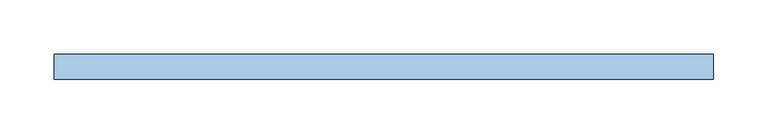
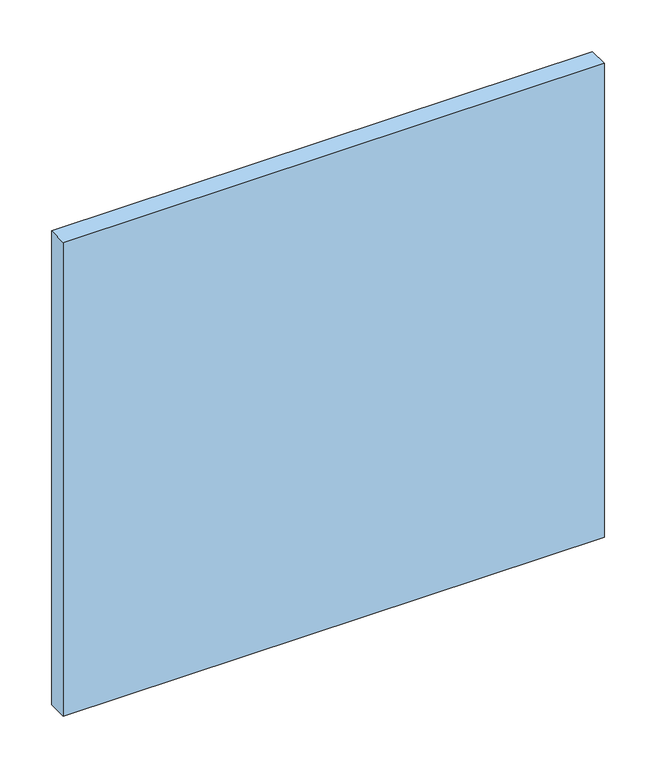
"""IFC4 building model written with IfcOpenShell, lengths in millimetres: window geometry, NLRS_30_WIN_glas-isolerend-raam_sh_gen_TOBA-JM : isolerend-raam."""

from ifc_helpers import new_model, si_unit, frame, origin, place, context, project, spatial, polyline, outline, extrude, source, transform, mapped, element, save


def window_522cf8dc(model_context):
    return source(origin(), model_context, "Body", "SweptSolid", [
        extrude(outline(polyline([(-303.0, 41.0), (303.0, 41.0), (303.0, 18.0), (-303.0, 18.0), (-303.0, 41.0)])), frame((0.0, 0.0, 71.0), z_axis=(0.0, 0.0, 1.0), x_axis=(1.0, 0.0, 0.0)), (0.0, 0.0, 1.0), 561.0),
    ])


if __name__ == "__main__":
    model = new_model("IFC4")
    model_context = context("Model", 3, world=origin())
    ifc_project = project(units=[si_unit("LENGTHUNIT", "METRE", prefix="MILLI")], contexts=[model_context])
    site = spatial("IfcSite", under=ifc_project)
    building = spatial("IfcBuilding", under=site)
    placement = place(None, origin())
    window_shape = window_522cf8dc(model_context)
    element("IfcWindow", 1, ObjectType="NLRS_30_WIN_glas-isolerend-raam_sh_gen_TOBA-JM : isolerend-raam", at=placement, inside=building, context=model_context, shape_type="MappedRepresentation", body=[
        mapped(window_shape, transform((0.0, 0.0, 0.0), x_axis=(1.0, 0.0, 0.0), y_axis=(0.0, 1.0, 0.0), z_axis=(0.0, 0.0, 1.0))),
    ])
    save(model, "model.ifc")
